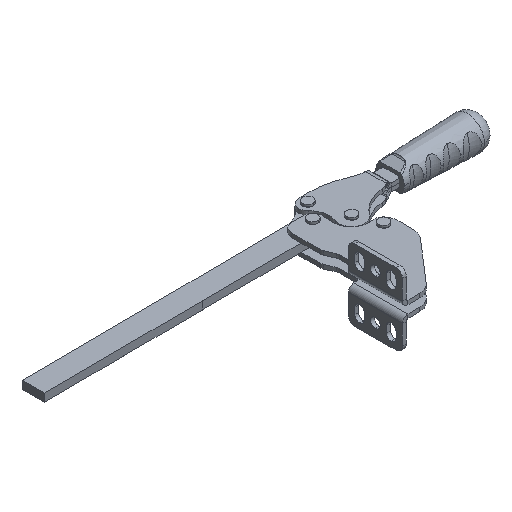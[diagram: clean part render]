
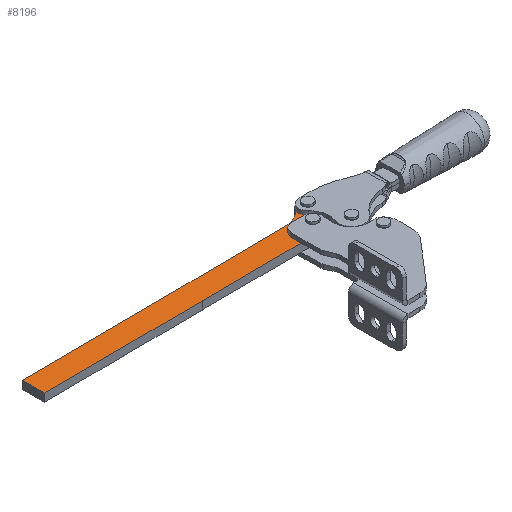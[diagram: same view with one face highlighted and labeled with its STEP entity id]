
A CAD part, isometric view. The second image highlights one B-rep face of the part: STEP entity #8196.
In plain terms, the highlighted planar face has unit normal (0, 0, 1).
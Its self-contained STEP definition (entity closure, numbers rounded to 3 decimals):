
#255 = CARTESIAN_POINT ( 'NONE',  ( 0., 0., 5. ) ) ;
#302 = VERTEX_POINT ( 'NONE', #17846 ) ;
#526 = LINE ( 'NONE', #7374, #10738 ) ;
#527 = EDGE_CURVE ( 'NONE', #10706, #5649, #9594, .T. ) ;
#823 = EDGE_CURVE ( 'NONE', #5629, #13188, #12562, .T. ) ;
#836 = VECTOR ( 'NONE', #11722, 1000. ) ;
#900 = CARTESIAN_POINT ( 'NONE',  ( 4.767, -3.419, 5. ) ) ;
#1038 = EDGE_CURVE ( 'NONE', #10706, #12938, #9047, .T. ) ;
#1172 = PLANE ( 'NONE',  #3723 ) ;
#1333 = DIRECTION ( 'NONE',  ( 1., 0., 0. ) ) ;
#1353 = VECTOR ( 'NONE', #6362, 1000. ) ;
#1555 = CARTESIAN_POINT ( 'NONE',  ( -84.003, -3.465, 5. ) ) ;
#2280 = CIRCLE ( 'NONE', #5191, 2. ) ;
#2351 = AXIS2_PLACEMENT_3D ( 'NONE', #17007, #6267, #16061 ) ;
#2439 = DIRECTION ( 'NONE',  ( 1., 0., 0. ) ) ;
#2496 = EDGE_CURVE ( 'NONE', #9849, #12938, #7637, .T. ) ;
#2521 = ORIENTED_EDGE ( 'NONE', *, *, #823, .F. ) ;
#2697 = EDGE_LOOP ( 'NONE', ( #9556, #2521 ) ) ;
#2769 = VERTEX_POINT ( 'NONE', #11691 ) ;
#3216 = CIRCLE ( 'NONE', #11889, 2. ) ;
#3304 = EDGE_CURVE ( 'NONE', #9775, #9849, #7916, .T. ) ;
#3312 = DIRECTION ( 'NONE',  ( 1., 0.006, 0. ) ) ;
#3554 = FACE_BOUND ( 'NONE', #15944, .T. ) ;
#3653 = ORIENTED_EDGE ( 'NONE', *, *, #4964, .F. ) ;
#3723 = AXIS2_PLACEMENT_3D ( 'NONE', #13408, #9185, #2439 ) ;
#3762 = VECTOR ( 'NONE', #15811, 1000. ) ;
#3917 = DIRECTION ( 'NONE',  ( 0., 0., 1. ) ) ;
#4304 = CARTESIAN_POINT ( 'NONE',  ( -84.003, -3.467, 5. ) ) ;
#4379 = CARTESIAN_POINT ( 'NONE',  ( -183.915, -18.082, 5. ) ) ;
#4443 = VERTEX_POINT ( 'NONE', #7176 ) ;
#4964 = EDGE_CURVE ( 'NONE', #5153, #5649, #6239, .T. ) ;
#5153 = VERTEX_POINT ( 'NONE', #4304 ) ;
#5191 = AXIS2_PLACEMENT_3D ( 'NONE', #10849, #3917, #10579 ) ;
#5209 = DIRECTION ( 'NONE',  ( 1., 0., 0. ) ) ;
#5210 = ORIENTED_EDGE ( 'NONE', *, *, #15334, .T. ) ;
#5351 = ORIENTED_EDGE ( 'NONE', *, *, #17242, .F. ) ;
#5629 = VERTEX_POINT ( 'NONE', #14353 ) ;
#5649 = VERTEX_POINT ( 'NONE', #1555 ) ;
#5805 = DIRECTION ( 'NONE',  ( 0., 0., 1. ) ) ;
#5874 = AXIS2_PLACEMENT_3D ( 'NONE', #7600, #13091, #9054 ) ;
#5886 = CARTESIAN_POINT ( 'NONE',  ( -84.003, 0., 5. ) ) ;
#5912 = ORIENTED_EDGE ( 'NONE', *, *, #527, .T. ) ;
#6215 = VERTEX_POINT ( 'NONE', #15014 ) ;
#6239 = LINE ( 'NONE', #5886, #836 ) ;
#6267 = DIRECTION ( 'NONE',  ( 0., 0., 1. ) ) ;
#6279 = VERTEX_POINT ( 'NONE', #12922 ) ;
#6362 = DIRECTION ( 'NONE',  ( 0.583, 0.813, 0. ) ) ;
#6366 = CARTESIAN_POINT ( 'NONE',  ( 0., 0., 5. ) ) ;
#6398 = DIRECTION ( 'NONE',  ( 0., 0., 1. ) ) ;
#6900 = EDGE_CURVE ( 'NONE', #4443, #6279, #14326, .T. ) ;
#7172 = DIRECTION ( 'NONE',  ( 1., 0.007, 0. ) ) ;
#7176 = CARTESIAN_POINT ( 'NONE',  ( -183.915, -18.082, 5. ) ) ;
#7342 = CIRCLE ( 'NONE', #5874, 5.866 ) ;
#7369 = CARTESIAN_POINT ( 'NONE',  ( -4.767, 3.419, 5. ) ) ;
#7374 = CARTESIAN_POINT ( 'NONE',  ( 0.121, -16.86, 5. ) ) ;
#7437 = VECTOR ( 'NONE', #11267, 1000. ) ;
#7462 = CARTESIAN_POINT ( 'NONE',  ( -3.159, -14.47, 5. ) ) ;
#7598 = DIRECTION ( 'NONE',  ( 1., 0., 0. ) ) ;
#7600 = CARTESIAN_POINT ( 'NONE',  ( -7.926, -11.052, 5. ) ) ;
#7637 = CIRCLE ( 'NONE', #12297, 5.866 ) ;
#7916 = LINE ( 'NONE', #900, #1353 ) ;
#8157 = CIRCLE ( 'NONE', #16052, 2. ) ;
#8196 = ADVANCED_FACE ( 'NONE', ( #11765, #10377, #3554 ), #1172, .T. ) ;
#8202 = ORIENTED_EDGE ( 'NONE', *, *, #3304, .T. ) ;
#8407 = VECTOR ( 'NONE', #3312, 1000. ) ;
#8794 = EDGE_CURVE ( 'NONE', #302, #5153, #10235, .T. ) ;
#9047 = CIRCLE ( 'NONE', #2351, 15. ) ;
#9054 = DIRECTION ( 'NONE',  ( 1., 0., 0. ) ) ;
#9185 = DIRECTION ( 'NONE',  ( 0., 0., 1. ) ) ;
#9556 = ORIENTED_EDGE ( 'NONE', *, *, #12805, .F. ) ;
#9594 = LINE ( 'NONE', #12429, #11676 ) ;
#9717 = VERTEX_POINT ( 'NONE', #9727 ) ;
#9727 = CARTESIAN_POINT ( 'NONE',  ( -2., 0., 5. ) ) ;
#9775 = VERTEX_POINT ( 'NONE', #7462 ) ;
#9849 = VERTEX_POINT ( 'NONE', #11558 ) ;
#9970 = CARTESIAN_POINT ( 'NONE',  ( -16.854, -2.879, 5. ) ) ;
#10235 = LINE ( 'NONE', #15836, #8407 ) ;
#10377 = FACE_BOUND ( 'NONE', #2697, .T. ) ;
#10559 = DIRECTION ( 'NONE',  ( 0., 0., 1. ) ) ;
#10579 = DIRECTION ( 'NONE',  ( 1., 0., 0. ) ) ;
#10706 = VERTEX_POINT ( 'NONE', #9970 ) ;
#10738 = VECTOR ( 'NONE', #7172, 1000. ) ;
#10800 = EDGE_LOOP ( 'NONE', ( #5912, #3653, #17229, #11548, #13306, #5210, #17738, #8202, #11191, #13965 ) ) ;
#10849 = CARTESIAN_POINT ( 'NONE',  ( 0., 0., 5. ) ) ;
#11191 = ORIENTED_EDGE ( 'NONE', *, *, #2496, .T. ) ;
#11267 = DIRECTION ( 'NONE',  ( 1., 0.006, 0. ) ) ;
#11455 = ORIENTED_EDGE ( 'NONE', *, *, #16352, .F. ) ;
#11548 = ORIENTED_EDGE ( 'NONE', *, *, #16090, .F. ) ;
#11558 = CARTESIAN_POINT ( 'NONE',  ( 4.767, -3.419, 5. ) ) ;
#11676 = VECTOR ( 'NONE', #18018, 1000. ) ;
#11691 = CARTESIAN_POINT ( 'NONE',  ( 2., 0., 5. ) ) ;
#11722 = DIRECTION ( 'NONE',  ( 0., 1., 0. ) ) ;
#11765 = FACE_OUTER_BOUND ( 'NONE', #10800, .T. ) ;
#11840 = DIRECTION ( 'NONE',  ( 1., 0., 0. ) ) ;
#11889 = AXIS2_PLACEMENT_3D ( 'NONE', #6366, #10559, #11840 ) ;
#12297 = AXIS2_PLACEMENT_3D ( 'NONE', #255, #5805, #7598 ) ;
#12429 = CARTESIAN_POINT ( 'NONE',  ( 0.024, -2.732, 5. ) ) ;
#12459 = DIRECTION ( 'NONE',  ( 0., 0., 1. ) ) ;
#12562 = CIRCLE ( 'NONE', #17806, 2. ) ;
#12805 = EDGE_CURVE ( 'NONE', #13188, #5629, #8157, .T. ) ;
#12922 = CARTESIAN_POINT ( 'NONE',  ( -83.917, -17.465, 5. ) ) ;
#12938 = VERTEX_POINT ( 'NONE', #7369 ) ;
#13091 = DIRECTION ( 'NONE',  ( 0., 0., 1. ) ) ;
#13188 = VERTEX_POINT ( 'NONE', #16637 ) ;
#13306 = ORIENTED_EDGE ( 'NONE', *, *, #6900, .T. ) ;
#13336 = CARTESIAN_POINT ( 'NONE',  ( -7.926, -11.052, 5. ) ) ;
#13408 = CARTESIAN_POINT ( 'NONE',  ( 0., 0., 5. ) ) ;
#13572 = CARTESIAN_POINT ( 'NONE',  ( -7.926, -11.052, 5. ) ) ;
#13965 = ORIENTED_EDGE ( 'NONE', *, *, #1038, .F. ) ;
#14326 = LINE ( 'NONE', #15874, #7437 ) ;
#14353 = CARTESIAN_POINT ( 'NONE',  ( -5.926, -11.052, 5. ) ) ;
#14556 = EDGE_CURVE ( 'NONE', #6215, #9775, #7342, .T. ) ;
#15014 = CARTESIAN_POINT ( 'NONE',  ( -7.875, -16.917, 5. ) ) ;
#15334 = EDGE_CURVE ( 'NONE', #6279, #6215, #526, .T. ) ;
#15621 = LINE ( 'NONE', #4379, #3762 ) ;
#15811 = DIRECTION ( 'NONE',  ( -0.006, 1., 0. ) ) ;
#15836 = CARTESIAN_POINT ( 'NONE',  ( -184.001, -4.084, 5. ) ) ;
#15874 = CARTESIAN_POINT ( 'NONE',  ( -183.915, -18.082, 5. ) ) ;
#15944 = EDGE_LOOP ( 'NONE', ( #5351, #11455 ) ) ;
#16052 = AXIS2_PLACEMENT_3D ( 'NONE', #13572, #12459, #1333 ) ;
#16061 = DIRECTION ( 'NONE',  ( 1., 0., 0. ) ) ;
#16090 = EDGE_CURVE ( 'NONE', #4443, #302, #15621, .T. ) ;
#16352 = EDGE_CURVE ( 'NONE', #2769, #9717, #3216, .T. ) ;
#16637 = CARTESIAN_POINT ( 'NONE',  ( -9.926, -11.052, 5. ) ) ;
#17007 = CARTESIAN_POINT ( 'NONE',  ( -16.985, 12.12, 5. ) ) ;
#17229 = ORIENTED_EDGE ( 'NONE', *, *, #8794, .F. ) ;
#17242 = EDGE_CURVE ( 'NONE', #9717, #2769, #2280, .T. ) ;
#17738 = ORIENTED_EDGE ( 'NONE', *, *, #14556, .T. ) ;
#17806 = AXIS2_PLACEMENT_3D ( 'NONE', #13336, #6398, #5209 ) ;
#17846 = CARTESIAN_POINT ( 'NONE',  ( -184.001, -4.084, 5. ) ) ;
#18018 = DIRECTION ( 'NONE',  ( -1., -0.009, 0. ) ) ;
